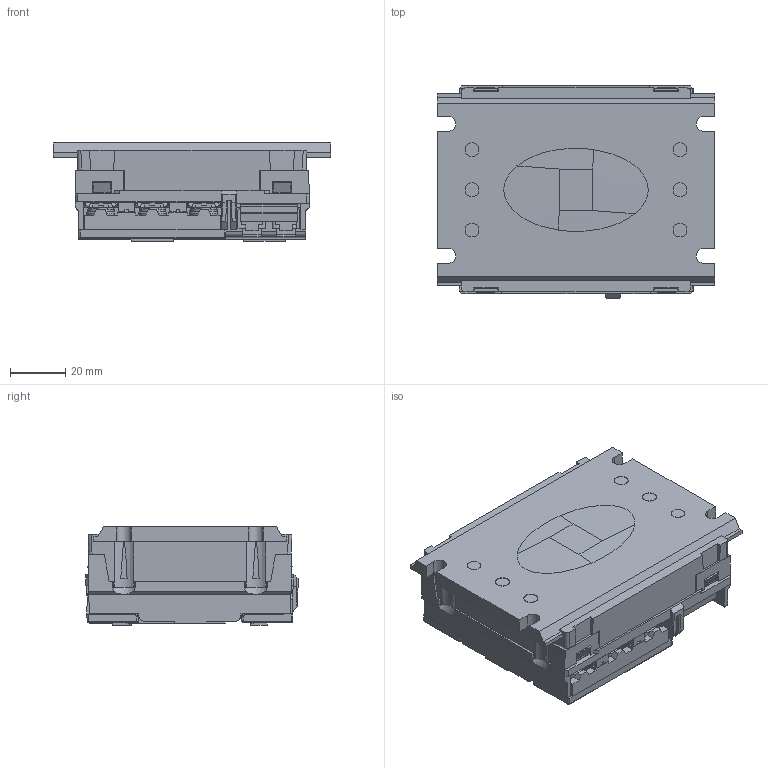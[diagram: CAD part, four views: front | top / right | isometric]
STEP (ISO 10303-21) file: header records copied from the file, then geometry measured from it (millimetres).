
FILE_DESCRIPTION(/* description */ (''),/* implementation_level */ '2;1');
FILE_NAME(/* name */ 'C:\Vault_local\Designs\Stock\20\97 Relookage triphasé 100mm\2D3D 640 A.stp',/* time_stamp */ '2017-12-14T16:16:50+01:00',/* author */ ('fbros'),/* organization */ (''),/* preprocessor_version */ 'ST-DEVELOPER v15.2',/* originating_system */ 'Autodesk Inventor 2014',/* authorisation */ '');
FILE_SCHEMA (('CONFIG_CONTROL_DESIGN'));
Products named in the file (1): 2D3D 640 A
Bounding box: 100 x 76.48 x 35.61 mm (x, y, z)
Volume: 143082.2 mm3; surface area: 64644 mm2
Topology: 7 solids, 12 shells, 2822 faces, 7973 edges, 5141 vertices
Faces by surface type: plane 1836, cylinder 445, cone 369, bspline 70, sphere 66, torus 36
Full cylindrical faces by diameter (mm): 2.35 x2, 2.95 x2, 3 x4, 3.12 x2, 4.38 x6, 4.6 x6, 5 x12, 7.5 x6
Entity records: 97574 total; most frequent: CARTESIAN_POINT 24092, ORIENTED_EDGE 15536, DIRECTION 13903, EDGE_CURVE 7760, LINE 5311, VECTOR 5311, VERTEX_POINT 5082, AXIS2_PLACEMENT_3D 4296
